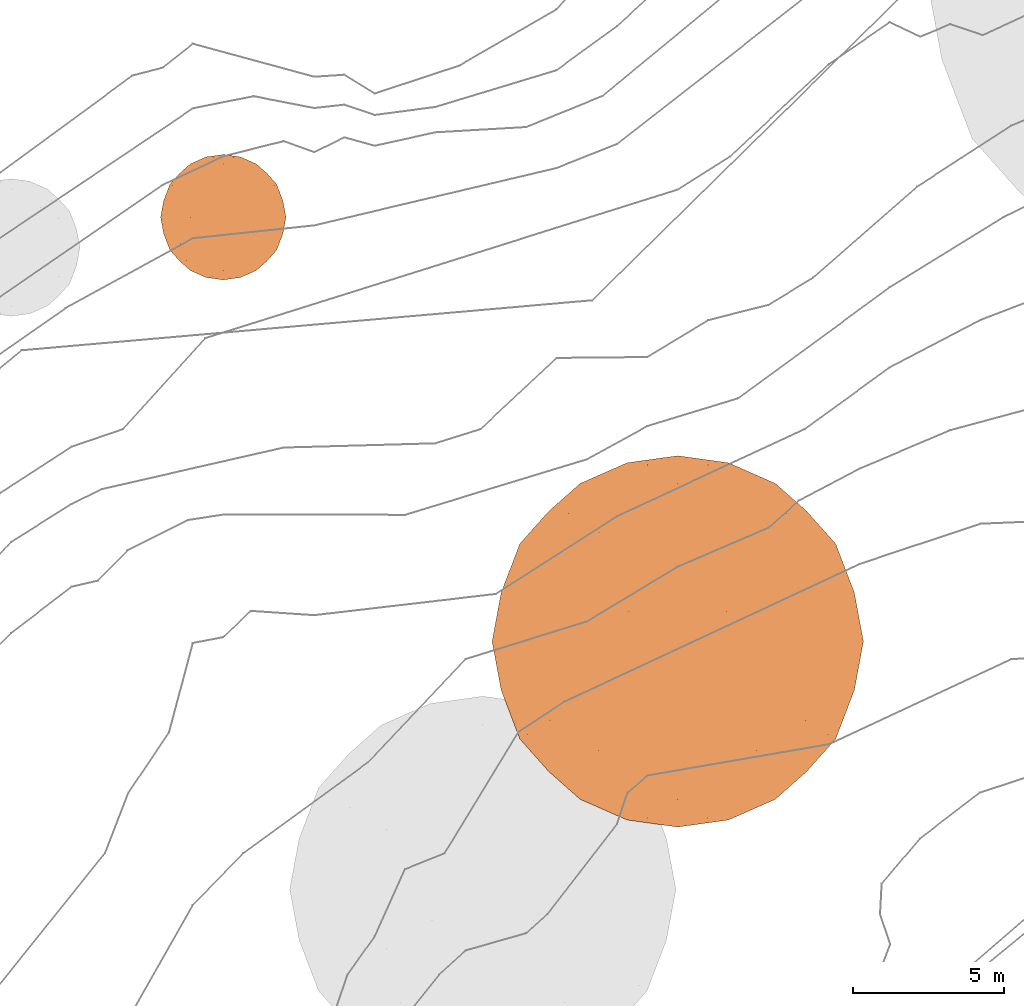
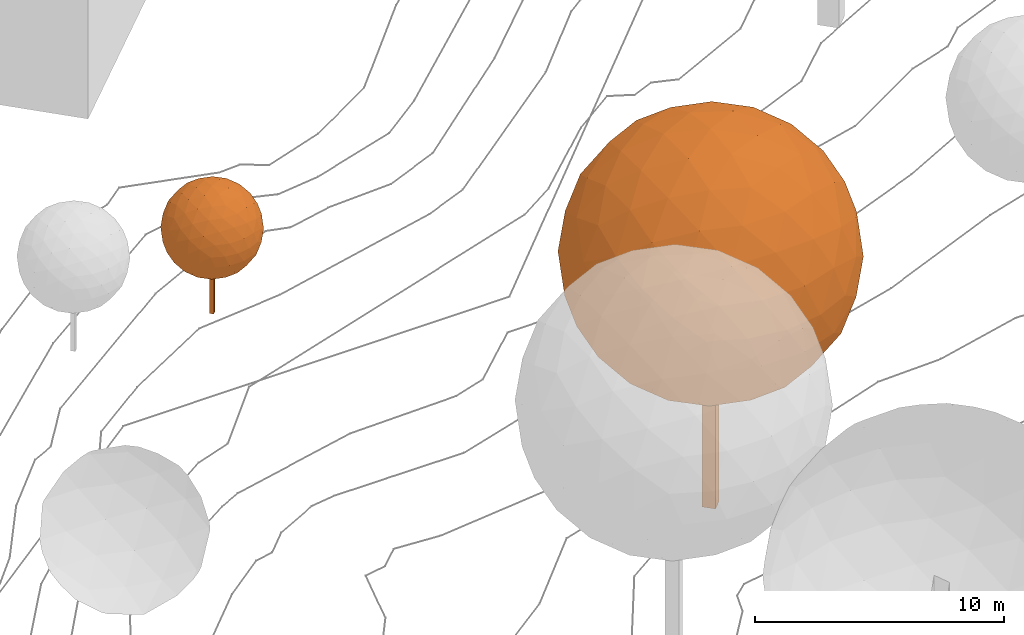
# Not in any storey, part 363 of 477: 2 geographic elements.
"""IFC4 model written with IfcOpenShell, lengths in metres."""

from ifc_helpers import new_model, si_unit, frame, origin_with_axes, place, context, subcontext, project, spatial, polygons, element, save


model = new_model("IFC4")

# Units and contexts
model_context = context("Model", 3, precision=1e-05, world=origin_with_axes())
body_context = subcontext(model_context, "Body", "Model", "MODEL_VIEW")
ifc_project = project(units=[si_unit("AREAUNIT", "SQUARE_METRE"), si_unit("LENGTHUNIT", "METRE")], contexts=[model_context])

# Sites
site_1_placement = place(None, origin_with_axes())
site_1 = spatial("IfcSite", under=ifc_project, at=site_1_placement, Name="Topoexport Site")
site_2_placement = place(site_1_placement, origin_with_axes())
site_2 = spatial("IfcSite", under=site_1, at=site_2_placement, Name="TPX_TREES")

# Geographic elements
geographic_element_1_placement = place(site_2_placement, frame((339.6777320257, 267.1707350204, 521.0171091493), z_axis=(0.0, 0.0, 1.0), x_axis=(1.0, 0.0, 0.0)))
element("IfcGeographicElement", 1, at=geographic_element_1_placement, inside=site_2, Name="Tree TR1 CD41", ObjectType="VEGETATION", PredefinedType="USERDEFINED", context=body_context, shape_type="Tessellation", body=[
    polygons([(0.0, -0.1317442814, 0.0), (-0.1317442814, 0.0, 0.0), (0.0, 0.1317442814, 0.0), (0.1317442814, 0.0, 0.0), (0.0, -0.1317442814, 4.1388686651), (-0.1317442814, 0.0, 4.1388686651), (0.0, 0.1317442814, 4.1388686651), (0.1317442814, 0.0, 4.1388686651)], [[[3, 4, 1]], [[1, 2, 3]], [[5, 8, 7]], [[7, 6, 5]], [[5, 6, 1]], [[1, 6, 2]], [[6, 7, 2]], [[2, 7, 3]], [[8, 5, 4]], [[4, 5, 1]], [[7, 8, 3]], [[3, 8, 4]]]),
    polygons([(-1.0879660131, 1.7603659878, 4.1388686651), (1.0879660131, 1.7603659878, 4.1388686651), (-1.0879660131, -1.7603659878, 4.1388686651), (1.0879660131, -1.7603659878, 4.1388686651), (0.0, -1.0879660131, 5.899234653), (0.0, 1.0879660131, 5.899234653), (0.0, -1.0879660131, 2.3785026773), (0.0, 1.0879660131, 2.3785026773), (1.7603659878, 0.0, 3.050902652), (1.7603659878, 0.0, 5.2268346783), (-1.7603659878, 0.0, 3.050902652), (-1.7603659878, 0.0, 5.2268346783), (0.0, 2.0694343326, 4.1388686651), (0.0, -2.0694343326, 4.1388686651), (-0.6394903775, -1.6742075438, 5.1735858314), (0.6394903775, -1.6742075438, 5.1735858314), (-0.6394903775, 1.6742075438, 5.1735858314), (0.6394903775, 1.6742075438, 5.1735858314), (0.0, 0.0, 6.2083029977), (-0.6394903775, -1.6742075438, 3.1041514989), (0.6394903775, -1.6742075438, 3.1041514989), (-0.6394903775, 1.6742075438, 3.1041514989), (0.6394903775, 1.6742075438, 3.1041514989), (0.0, 0.0, 2.0694343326), (1.6742075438, 1.0347171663, 3.4993782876), (1.6742075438, -1.0347171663, 3.4993782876), (1.0347171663, -0.6394903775, 2.4646611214), (1.0347171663, 0.6394903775, 2.4646611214), (1.6742075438, 1.0347171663, 4.7783590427), (1.6742075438, -1.0347171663, 4.7783590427), (1.0347171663, -0.6394903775, 5.8130762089), (1.0347171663, 0.6394903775, 5.8130762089), (2.0694343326, 0.0, 4.1388686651), (-1.6742075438, 1.0347171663, 3.4993782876), (-1.6742075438, -1.0347171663, 3.4993782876), (-1.0347171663, -0.6394903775, 2.4646611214), (-1.0347171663, 0.6394903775, 2.4646611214), (-1.6742075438, 1.0347171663, 4.7783590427), (-1.6742075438, -1.0347171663, 4.7783590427), (-1.0347171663, -0.6394903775, 5.8130762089), (-1.0347171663, 0.6394903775, 5.8130762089), (-2.0694343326, 0.0, 4.1388686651), (-0.5655071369, 1.9906682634, 4.1388686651), (0.5655071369, 1.9906682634, 4.1388686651), (-0.5655071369, -1.9906682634, 4.1388686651), (0.5655071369, -1.9906682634, 4.1388686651), (-0.897903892, -1.785235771, 4.6766979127), (-0.3323967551, -1.4357331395, 5.591707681), (-0.3361999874, -1.968149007, 4.6828516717), (0.897903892, -1.785235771, 4.6766979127), (0.3323967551, -1.4357331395, 5.591707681), (0.3361999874, -1.968149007, 4.6828516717), (0.0, -1.7603659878, 5.2268346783), (-0.897903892, 1.785235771, 4.6766979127), (-0.3323967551, 1.4357331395, 5.591707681), (-0.3361999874, 1.968149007, 4.6828516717), (0.897903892, 1.785235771, 4.6766979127), (0.3323967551, 1.4357331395, 5.591707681), (0.3361999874, 1.968149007, 4.6828516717), (0.0, 1.7603659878, 5.2268346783), (0.0, -0.5655071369, 6.1295369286), (0.0, 0.5655071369, 6.1295369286), (-0.897903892, -1.785235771, 3.6010394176), (-0.3323967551, -1.4357331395, 2.6860296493), (-0.3361999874, -1.968149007, 3.5948856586), (0.897903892, -1.785235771, 3.6010394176), (0.3323967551, -1.4357331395, 2.6860296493), (0.3361999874, -1.968149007, 3.5948856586), (0.0, -1.7603659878, 3.050902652), (-0.897903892, 1.785235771, 3.6010394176), (-0.3323967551, 1.4357331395, 2.6860296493), (-0.3361999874, 1.968149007, 3.5948856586), (0.897903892, 1.785235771, 3.6010394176), (0.3323967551, 1.4357331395, 2.6860296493), (0.3361999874, 1.968149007, 3.5948856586), (0.0, 1.7603659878, 3.050902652), (0.0, -0.5655071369, 2.1482004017), (0.0, 0.5655071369, 2.1482004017), (1.4357331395, 1.4528390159, 3.80647191), (1.785235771, 0.5378292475, 3.2409647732), (1.2163829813, 1.4241660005, 3.2586856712), (1.4357331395, -1.4528390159, 3.80647191), (1.785235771, -0.5378292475, 3.2409647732), (1.2163829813, -1.4241660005, 3.2586856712), (0.5378292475, -0.897903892, 2.3536328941), (1.4528390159, -0.3323967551, 2.7031355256), (0.8801829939, -1.2163829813, 2.7147026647), (0.5439830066, -0.3361999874, 2.1707196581), (1.4241660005, -0.8801829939, 2.9224856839), (0.5378292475, 0.897903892, 2.3536328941), (1.4528390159, 0.3323967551, 2.7031355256), (0.8801829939, 1.2163829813, 2.7147026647), (0.5439830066, 0.3361999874, 2.1707196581), (1.4241660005, 0.8801829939, 2.9224856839), (1.0879660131, 0.0, 2.3785026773), (1.4357331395, 1.4528390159, 4.4712654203), (1.785235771, 0.5378292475, 5.0367725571), (1.2163829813, 1.4241660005, 5.0190516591), (1.7603659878, 1.0879660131, 4.1388686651), (1.4357331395, -1.4528390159, 4.4712654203), (1.785235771, -0.5378292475, 5.0367725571), (1.2163829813, -1.4241660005, 5.0190516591), (1.7603659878, -1.0879660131, 4.1388686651), (0.5378292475, -0.897903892, 5.9241044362), (1.4528390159, -0.3323967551, 5.5746018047), (0.8801829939, -1.2163829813, 5.5630346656), (0.5439830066, -0.3361999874, 6.1070176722), (1.4241660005, -0.8801829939, 5.3552516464), (0.5378292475, 0.897903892, 5.9241044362), (1.4528390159, 0.3323967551, 5.5746018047), (0.8801829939, 1.2163829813, 5.5630346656), (0.5439830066, 0.3361999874, 6.1070176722), (1.4241660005, 0.8801829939, 5.3552516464), (1.0879660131, 0.0, 5.899234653), (1.9906682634, 0.0, 3.5733615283), (1.9906682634, 0.0, 4.704375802), (1.968149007, 0.5439830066, 3.8026686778), (1.968149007, -0.5439830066, 3.8026686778), (1.968149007, 0.5439830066, 4.4750686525), (1.968149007, -0.5439830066, 4.4750686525), (-1.4357331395, 1.4528390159, 3.80647191), (-1.785235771, 0.5378292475, 3.2409647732), (-1.2163829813, 1.4241660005, 3.2586856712), (-1.4357331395, -1.4528390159, 3.80647191), (-1.785235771, -0.5378292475, 3.2409647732), (-1.2163829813, -1.4241660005, 3.2586856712), (-0.5378292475, -0.897903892, 2.3536328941), (-1.4528390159, -0.3323967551, 2.7031355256), (-0.8801829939, -1.2163829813, 2.7147026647), (-0.5439830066, -0.3361999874, 2.1707196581), (-1.4241660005, -0.8801829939, 2.9224856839), (-0.5378292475, 0.897903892, 2.3536328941), (-1.4528390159, 0.3323967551, 2.7031355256), (-0.8801829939, 1.2163829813, 2.7147026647), (-0.5439830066, 0.3361999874, 2.1707196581), (-1.4241660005, 0.8801829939, 2.9224856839), (-1.0879660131, 0.0, 2.3785026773), (-1.4357331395, 1.4528390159, 4.4712654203), (-1.785235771, 0.5378292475, 5.0367725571), (-1.2163829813, 1.4241660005, 5.0190516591), (-1.7603659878, 1.0879660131, 4.1388686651), (-1.4357331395, -1.4528390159, 4.4712654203), (-1.785235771, -0.5378292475, 5.0367725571), (-1.2163829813, -1.4241660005, 5.0190516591), (-1.7603659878, -1.0879660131, 4.1388686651), (-0.5378292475, -0.897903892, 5.9241044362), (-1.4528390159, -0.3323967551, 5.5746018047), (-0.8801829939, -1.2163829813, 5.5630346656), (-0.5439830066, -0.3361999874, 6.1070176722), (-1.4241660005, -0.8801829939, 5.3552516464), (-0.5378292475, 0.897903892, 5.9241044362), (-1.4528390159, 0.3323967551, 5.5746018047), (-0.8801829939, 1.2163829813, 5.5630346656), (-0.5439830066, 0.3361999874, 6.1070176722), (-1.4241660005, 0.8801829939, 5.3552516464), (-1.0879660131, 0.0, 5.899234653), (-1.9906682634, 0.0, 3.5733615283), (-1.9906682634, 0.0, 4.704375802), (-1.968149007, 0.5439830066, 3.8026686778), (-1.968149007, -0.5439830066, 3.8026686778), (-1.968149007, 0.5439830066, 4.4750686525), (-1.968149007, -0.5439830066, 4.4750686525)], [[[1, 138, 54]], [[138, 38, 140]], [[54, 140, 17]], [[138, 140, 54]], [[38, 139, 155]], [[139, 12, 152]], [[155, 152, 41]], [[139, 152, 155]], [[17, 153, 55]], [[153, 41, 151]], [[55, 151, 6]], [[153, 151, 55]], [[38, 155, 140]], [[155, 41, 153]], [[140, 153, 17]], [[155, 153, 140]], [[1, 54, 43]], [[54, 17, 56]], [[43, 56, 13]], [[54, 56, 43]], [[17, 55, 60]], [[55, 6, 58]], [[60, 58, 18]], [[55, 58, 60]], [[13, 59, 44]], [[59, 18, 57]], [[44, 57, 2]], [[59, 57, 44]], [[17, 60, 56]], [[60, 18, 59]], [[56, 59, 13]], [[60, 59, 56]], [[1, 43, 70]], [[43, 13, 72]], [[70, 72, 22]], [[43, 72, 70]], [[13, 44, 75]], [[44, 2, 73]], [[75, 73, 23]], [[44, 73, 75]], [[22, 76, 71]], [[76, 23, 74]], [[71, 74, 8]], [[76, 74, 71]], [[13, 75, 72]], [[75, 23, 76]], [[72, 76, 22]], [[75, 76, 72]], [[1, 70, 121]], [[70, 22, 123]], [[121, 123, 34]], [[70, 123, 121]], [[22, 71, 134]], [[71, 8, 132]], [[134, 132, 37]], [[71, 132, 134]], [[34, 136, 122]], [[136, 37, 133]], [[122, 133, 11]], [[136, 133, 122]], [[22, 134, 123]], [[134, 37, 136]], [[123, 136, 34]], [[134, 136, 123]], [[1, 121, 138]], [[121, 34, 141]], [[138, 141, 38]], [[121, 141, 138]], [[34, 122, 159]], [[122, 11, 157]], [[159, 157, 42]], [[122, 157, 159]], [[38, 161, 139]], [[161, 42, 158]], [[139, 158, 12]], [[161, 158, 139]], [[34, 159, 141]], [[159, 42, 161]], [[141, 161, 38]], [[159, 161, 141]], [[2, 57, 96]], [[57, 18, 98]], [[96, 98, 29]], [[57, 98, 96]], [[18, 58, 111]], [[58, 6, 109]], [[111, 109, 32]], [[58, 109, 111]], [[29, 113, 97]], [[113, 32, 110]], [[97, 110, 10]], [[113, 110, 97]], [[18, 111, 98]], [[111, 32, 113]], [[98, 113, 29]], [[111, 113, 98]], [[6, 151, 62]], [[151, 41, 154]], [[62, 154, 19]], [[151, 154, 62]], [[41, 152, 156]], [[152, 12, 147]], [[156, 147, 40]], [[152, 147, 156]], [[19, 149, 61]], [[149, 40, 146]], [[61, 146, 5]], [[149, 146, 61]], [[41, 156, 154]], [[156, 40, 149]], [[154, 149, 19]], [[156, 149, 154]], [[12, 158, 143]], [[158, 42, 162]], [[143, 162, 39]], [[158, 162, 143]], [[42, 157, 160]], [[157, 11, 125]], [[160, 125, 35]], [[157, 125, 160]], [[39, 145, 142]], [[145, 35, 124]], [[142, 124, 3]], [[145, 124, 142]], [[42, 160, 162]], [[160, 35, 145]], [[162, 145, 39]], [[160, 145, 162]], [[11, 133, 128]], [[133, 37, 137]], [[128, 137, 36]], [[133, 137, 128]], [[37, 132, 135]], [[132, 8, 78]], [[135, 78, 24]], [[132, 78, 135]], [[36, 130, 127]], [[130, 24, 77]], [[127, 77, 7]], [[130, 77, 127]], [[37, 135, 137]], [[135, 24, 130]], [[137, 130, 36]], [[135, 130, 137]], [[8, 74, 90]], [[74, 23, 92]], [[90, 92, 28]], [[74, 92, 90]], [[23, 73, 81]], [[73, 2, 79]], [[81, 79, 25]], [[73, 79, 81]], [[28, 94, 91]], [[94, 25, 80]], [[91, 80, 9]], [[94, 80, 91]], [[23, 81, 92]], [[81, 25, 94]], [[92, 94, 28]], [[81, 94, 92]], [[4, 100, 50]], [[100, 30, 102]], [[50, 102, 16]], [[100, 102, 50]], [[30, 101, 108]], [[101, 10, 105]], [[108, 105, 31]], [[101, 105, 108]], [[16, 106, 51]], [[106, 31, 104]], [[51, 104, 5]], [[106, 104, 51]], [[30, 108, 102]], [[108, 31, 106]], [[102, 106, 16]], [[108, 106, 102]], [[4, 50, 46]], [[50, 16, 52]], [[46, 52, 14]], [[50, 52, 46]], [[16, 51, 53]], [[51, 5, 48]], [[53, 48, 15]], [[51, 48, 53]], [[14, 49, 45]], [[49, 15, 47]], [[45, 47, 3]], [[49, 47, 45]], [[16, 53, 52]], [[53, 15, 49]], [[52, 49, 14]], [[53, 49, 52]], [[4, 46, 66]], [[46, 14, 68]], [[66, 68, 21]], [[46, 68, 66]], [[14, 45, 65]], [[45, 3, 63]], [[65, 63, 20]], [[45, 63, 65]], [[21, 69, 67]], [[69, 20, 64]], [[67, 64, 7]], [[69, 64, 67]], [[14, 65, 68]], [[65, 20, 69]], [[68, 69, 21]], [[65, 69, 68]], [[4, 66, 82]], [[66, 21, 84]], [[82, 84, 26]], [[66, 84, 82]], [[21, 67, 87]], [[67, 7, 85]], [[87, 85, 27]], [[67, 85, 87]], [[26, 89, 83]], [[89, 27, 86]], [[83, 86, 9]], [[89, 86, 83]], [[21, 87, 84]], [[87, 27, 89]], [[84, 89, 26]], [[87, 89, 84]], [[4, 82, 100]], [[82, 26, 103]], [[100, 103, 30]], [[82, 103, 100]], [[26, 83, 118]], [[83, 9, 115]], [[118, 115, 33]], [[83, 115, 118]], [[30, 120, 101]], [[120, 33, 116]], [[101, 116, 10]], [[120, 116, 101]], [[26, 118, 103]], [[118, 33, 120]], [[103, 120, 30]], [[118, 120, 103]], [[5, 104, 61]], [[104, 31, 107]], [[61, 107, 19]], [[104, 107, 61]], [[31, 105, 114]], [[105, 10, 110]], [[114, 110, 32]], [[105, 110, 114]], [[19, 112, 62]], [[112, 32, 109]], [[62, 109, 6]], [[112, 109, 62]], [[31, 114, 107]], [[114, 32, 112]], [[107, 112, 19]], [[114, 112, 107]], [[3, 47, 142]], [[47, 15, 144]], [[142, 144, 39]], [[47, 144, 142]], [[15, 48, 148]], [[48, 5, 146]], [[148, 146, 40]], [[48, 146, 148]], [[39, 150, 143]], [[150, 40, 147]], [[143, 147, 12]], [[150, 147, 143]], [[15, 148, 144]], [[148, 40, 150]], [[144, 150, 39]], [[148, 150, 144]], [[7, 64, 127]], [[64, 20, 129]], [[127, 129, 36]], [[64, 129, 127]], [[20, 63, 126]], [[63, 3, 124]], [[126, 124, 35]], [[63, 124, 126]], [[36, 131, 128]], [[131, 35, 125]], [[128, 125, 11]], [[131, 125, 128]], [[20, 126, 129]], [[126, 35, 131]], [[129, 131, 36]], [[126, 131, 129]], [[9, 86, 91]], [[86, 27, 95]], [[91, 95, 28]], [[86, 95, 91]], [[27, 85, 88]], [[85, 7, 77]], [[88, 77, 24]], [[85, 77, 88]], [[28, 93, 90]], [[93, 24, 78]], [[90, 78, 8]], [[93, 78, 90]], [[27, 88, 95]], [[88, 24, 93]], [[95, 93, 28]], [[88, 93, 95]], [[10, 116, 97]], [[116, 33, 119]], [[97, 119, 29]], [[116, 119, 97]], [[33, 115, 117]], [[115, 9, 80]], [[117, 80, 25]], [[115, 80, 117]], [[29, 99, 96]], [[99, 25, 79]], [[96, 79, 2]], [[99, 79, 96]], [[33, 117, 119]], [[117, 25, 99]], [[119, 99, 29]], [[117, 99, 119]]]),
])
geographic_element_2_placement = place(site_2_placement, frame((354.6777320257, 253.1707354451, 514.8688558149), z_axis=(0.0, 0.0, 1.0), x_axis=(1.0, 0.0, 0.0)))
element("IfcGeographicElement", 2, at=geographic_element_2_placement, inside=site_2, Name="Tree TR3 CD122", ObjectType="VEGETATION", PredefinedType="USERDEFINED", context=body_context, shape_type="Tessellation", body=[
    polygons([(0.0, -0.3901307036, 0.0), (-0.3901307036, 0.0, 0.0), (0.0, 0.3901307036, 0.0), (0.3901307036, 0.0, 0.0), (0.0, -0.3901307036, 12.2563175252), (-0.3901307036, 0.0, 12.2563175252), (0.0, 0.3901307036, 12.2563175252), (0.3901307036, 0.0, 12.2563175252)], [[[3, 4, 1]], [[1, 2, 3]], [[5, 8, 7]], [[7, 6, 5]], [[5, 6, 1]], [[1, 6, 2]], [[6, 7, 2]], [[2, 7, 3]], [[8, 5, 4]], [[4, 5, 1]], [[7, 8, 3]], [[3, 8, 4]]]),
    polygons([(-3.2217637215, 5.2129232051, 12.2563175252), (3.2217637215, 5.2129232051, 12.2563175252), (-3.2217637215, -5.2129232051, 12.2563175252), (3.2217637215, -5.2129232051, 12.2563175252), (0.0, -3.2217637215, 17.4692407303), (0.0, 3.2217637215, 17.4692407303), (0.0, -3.2217637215, 7.0433943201), (0.0, 3.2217637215, 7.0433943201), (5.2129232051, 0.0, 9.0345538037), (5.2129232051, 0.0, 15.4780812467), (-5.2129232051, 0.0, 9.0345538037), (-5.2129232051, 0.0, 15.4780812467), (0.0, 6.1281587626, 12.2563175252), (0.0, -6.1281587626, 12.2563175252), (-1.8937052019, -4.9577845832, 15.3203969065), (1.8937052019, -4.9577845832, 15.3203969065), (-1.8937052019, 4.9577845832, 15.3203969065), (1.8937052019, 4.9577845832, 15.3203969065), (0.0, 0.0, 18.3844762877), (-1.8937052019, -4.9577845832, 9.1922381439), (1.8937052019, -4.9577845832, 9.1922381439), (-1.8937052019, 4.9577845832, 9.1922381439), (1.8937052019, 4.9577845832, 9.1922381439), (0.0, 0.0, 6.1281587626), (4.9577845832, 3.0640793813, 10.3626123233), (4.9577845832, -3.0640793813, 10.3626123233), (3.0640793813, -1.8937052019, 7.298532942), (3.0640793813, 1.8937052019, 7.298532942), (4.9577845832, 3.0640793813, 14.150022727), (4.9577845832, -3.0640793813, 14.150022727), (3.0640793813, -1.8937052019, 17.2141021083), (3.0640793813, 1.8937052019, 17.2141021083), (6.1281587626, 0.0, 12.2563175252), (-4.9577845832, 3.0640793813, 10.3626123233), (-4.9577845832, -3.0640793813, 10.3626123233), (-3.0640793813, -1.8937052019, 7.298532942), (-3.0640793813, 1.8937052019, 7.298532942), (-4.9577845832, 3.0640793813, 14.150022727), (-4.9577845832, -3.0640793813, 14.150022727), (-3.0640793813, -1.8937052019, 17.2141021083), (-3.0640793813, 1.8937052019, 17.2141021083), (-6.1281587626, 0.0, 12.2563175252), (-1.6746206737, 5.8949109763, 12.2563175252), (1.6746206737, 5.8949109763, 12.2563175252), (-1.6746206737, -5.8949109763, 12.2563175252), (1.6746206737, -5.8949109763, 12.2563175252), (-2.6589380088, -5.2865694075, 13.8489764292), (-0.9843173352, -4.2515969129, 16.5585695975), (-0.9955797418, -5.828225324, 13.8671993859), (2.6589380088, -5.2865694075, 13.8489764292), (0.9843173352, -4.2515969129, 16.5585695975), (0.9955797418, -5.828225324, 13.8671993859), (0.0, -5.2129232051, 15.4780812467), (-2.6589380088, 5.2865694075, 13.8489764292), (-0.9843173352, 4.2515969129, 16.5585695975), (-0.9955797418, 5.828225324, 13.8671993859), (2.6589380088, 5.2865694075, 13.8489764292), (0.9843173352, 4.2515969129, 16.5585695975), (0.9955797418, 5.828225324, 13.8671993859), (0.0, 5.2129232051, 15.4780812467), (0.0, -1.6746206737, 18.1512285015), (0.0, 1.6746206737, 18.1512285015), (-2.6589380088, -5.2865694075, 10.6636586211), (-0.9843173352, -4.2515969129, 7.9540654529), (-0.9955797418, -5.828225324, 10.6454356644), (2.6589380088, -5.2865694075, 10.6636586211), (0.9843173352, -4.2515969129, 7.9540654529), (0.9955797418, -5.828225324, 10.6454356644), (0.0, -5.2129232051, 9.0345538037), (-2.6589380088, 5.2865694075, 10.6636586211), (-0.9843173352, 4.2515969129, 7.9540654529), (-0.9955797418, 5.828225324, 10.6454356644), (2.6589380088, 5.2865694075, 10.6636586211), (0.9843173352, 4.2515969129, 7.9540654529), (0.9955797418, 5.828225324, 10.6454356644), (0.0, 5.2129232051, 9.0345538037), (0.0, -1.6746206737, 6.3614065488), (0.0, 1.6746206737, 6.3614065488), (4.2515969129, 4.3022520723, 11.27200019), (5.2865694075, 1.592658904, 9.5973795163), (3.6020413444, 4.2173434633, 9.6498559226), (4.2515969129, -4.3022520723, 11.27200019), (5.2865694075, -1.592658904, 9.5973795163), (3.6020413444, -4.2173434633, 9.6498559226), (1.592658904, -2.6589380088, 6.9697481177), (4.3022520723, -0.9843173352, 8.0047206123), (2.6064616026, -3.6020413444, 8.0389740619), (1.6108818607, -0.9955797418, 6.4280922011), (4.2173434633, -2.6064616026, 8.6542761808), (1.592658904, 2.6589380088, 6.9697481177), (4.3022520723, 0.9843173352, 8.0047206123), (2.6064616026, 3.6020413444, 8.0389740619), (1.6108818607, 0.9955797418, 6.4280922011), (4.2173434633, 2.6064616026, 8.6542761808), (3.2217637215, 0.0, 7.0433943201), (4.2515969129, 4.3022520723, 13.2406348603), (5.2865694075, 1.592658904, 14.915255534), (3.6020413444, 4.2173434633, 14.8627791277), (5.2129232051, 3.2217637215, 12.2563175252), (4.2515969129, -4.3022520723, 13.2406348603), (5.2865694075, -1.592658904, 14.915255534), (3.6020413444, -4.2173434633, 14.8627791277), (5.2129232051, -3.2217637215, 12.2563175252), (1.592658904, -2.6589380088, 17.5428869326), (4.3022520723, -0.9843173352, 16.507914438), (2.6064616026, -3.6020413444, 16.4736609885), (1.6108818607, -0.9955797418, 18.0845428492), (4.2173434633, -2.6064616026, 15.8583588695), (1.592658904, 2.6589380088, 17.5428869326), (4.3022520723, 0.9843173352, 16.507914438), (2.6064616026, 3.6020413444, 16.4736609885), (1.6108818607, 0.9955797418, 18.0845428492), (4.2173434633, 2.6064616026, 15.8583588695), (3.2217637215, 0.0, 17.4692407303), (5.8949109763, 0.0, 10.5816968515), (5.8949109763, 0.0, 13.9309381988), (5.828225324, 1.6108818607, 11.2607377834), (5.828225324, -1.6108818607, 11.2607377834), (5.828225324, 1.6108818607, 13.251897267), (5.828225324, -1.6108818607, 13.251897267), (-4.2515969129, 4.3022520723, 11.27200019), (-5.2865694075, 1.592658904, 9.5973795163), (-3.6020413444, 4.2173434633, 9.6498559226), (-4.2515969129, -4.3022520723, 11.27200019), (-5.2865694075, -1.592658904, 9.5973795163), (-3.6020413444, -4.2173434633, 9.6498559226), (-1.592658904, -2.6589380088, 6.9697481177), (-4.3022520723, -0.9843173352, 8.0047206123), (-2.6064616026, -3.6020413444, 8.0389740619), (-1.6108818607, -0.9955797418, 6.4280922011), (-4.2173434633, -2.6064616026, 8.6542761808), (-1.592658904, 2.6589380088, 6.9697481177), (-4.3022520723, 0.9843173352, 8.0047206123), (-2.6064616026, 3.6020413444, 8.0389740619), (-1.6108818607, 0.9955797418, 6.4280922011), (-4.2173434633, 2.6064616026, 8.6542761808), (-3.2217637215, 0.0, 7.0433943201), (-4.2515969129, 4.3022520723, 13.2406348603), (-5.2865694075, 1.592658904, 14.915255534), (-3.6020413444, 4.2173434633, 14.8627791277), (-5.2129232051, 3.2217637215, 12.2563175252), (-4.2515969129, -4.3022520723, 13.2406348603), (-5.2865694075, -1.592658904, 14.915255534), (-3.6020413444, -4.2173434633, 14.8627791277), (-5.2129232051, -3.2217637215, 12.2563175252), (-1.592658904, -2.6589380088, 17.5428869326), (-4.3022520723, -0.9843173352, 16.507914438), (-2.6064616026, -3.6020413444, 16.4736609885), (-1.6108818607, -0.9955797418, 18.0845428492), (-4.2173434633, -2.6064616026, 15.8583588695), (-1.592658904, 2.6589380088, 17.5428869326), (-4.3022520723, 0.9843173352, 16.507914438), (-2.6064616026, 3.6020413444, 16.4736609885), (-1.6108818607, 0.9955797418, 18.0845428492), (-4.2173434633, 2.6064616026, 15.8583588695), (-3.2217637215, 0.0, 17.4692407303), (-5.8949109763, 0.0, 10.5816968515), (-5.8949109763, 0.0, 13.9309381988), (-5.828225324, 1.6108818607, 11.2607377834), (-5.828225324, -1.6108818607, 11.2607377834), (-5.828225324, 1.6108818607, 13.251897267), (-5.828225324, -1.6108818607, 13.251897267)], [[[1, 138, 54]], [[138, 38, 140]], [[54, 140, 17]], [[138, 140, 54]], [[38, 139, 155]], [[139, 12, 152]], [[155, 152, 41]], [[139, 152, 155]], [[17, 153, 55]], [[153, 41, 151]], [[55, 151, 6]], [[153, 151, 55]], [[38, 155, 140]], [[155, 41, 153]], [[140, 153, 17]], [[155, 153, 140]], [[1, 54, 43]], [[54, 17, 56]], [[43, 56, 13]], [[54, 56, 43]], [[17, 55, 60]], [[55, 6, 58]], [[60, 58, 18]], [[55, 58, 60]], [[13, 59, 44]], [[59, 18, 57]], [[44, 57, 2]], [[59, 57, 44]], [[17, 60, 56]], [[60, 18, 59]], [[56, 59, 13]], [[60, 59, 56]], [[1, 43, 70]], [[43, 13, 72]], [[70, 72, 22]], [[43, 72, 70]], [[13, 44, 75]], [[44, 2, 73]], [[75, 73, 23]], [[44, 73, 75]], [[22, 76, 71]], [[76, 23, 74]], [[71, 74, 8]], [[76, 74, 71]], [[13, 75, 72]], [[75, 23, 76]], [[72, 76, 22]], [[75, 76, 72]], [[1, 70, 121]], [[70, 22, 123]], [[121, 123, 34]], [[70, 123, 121]], [[22, 71, 134]], [[71, 8, 132]], [[134, 132, 37]], [[71, 132, 134]], [[34, 136, 122]], [[136, 37, 133]], [[122, 133, 11]], [[136, 133, 122]], [[22, 134, 123]], [[134, 37, 136]], [[123, 136, 34]], [[134, 136, 123]], [[1, 121, 138]], [[121, 34, 141]], [[138, 141, 38]], [[121, 141, 138]], [[34, 122, 159]], [[122, 11, 157]], [[159, 157, 42]], [[122, 157, 159]], [[38, 161, 139]], [[161, 42, 158]], [[139, 158, 12]], [[161, 158, 139]], [[34, 159, 141]], [[159, 42, 161]], [[141, 161, 38]], [[159, 161, 141]], [[2, 57, 96]], [[57, 18, 98]], [[96, 98, 29]], [[57, 98, 96]], [[18, 58, 111]], [[58, 6, 109]], [[111, 109, 32]], [[58, 109, 111]], [[29, 113, 97]], [[113, 32, 110]], [[97, 110, 10]], [[113, 110, 97]], [[18, 111, 98]], [[111, 32, 113]], [[98, 113, 29]], [[111, 113, 98]], [[6, 151, 62]], [[151, 41, 154]], [[62, 154, 19]], [[151, 154, 62]], [[41, 152, 156]], [[152, 12, 147]], [[156, 147, 40]], [[152, 147, 156]], [[19, 149, 61]], [[149, 40, 146]], [[61, 146, 5]], [[149, 146, 61]], [[41, 156, 154]], [[156, 40, 149]], [[154, 149, 19]], [[156, 149, 154]], [[12, 158, 143]], [[158, 42, 162]], [[143, 162, 39]], [[158, 162, 143]], [[42, 157, 160]], [[157, 11, 125]], [[160, 125, 35]], [[157, 125, 160]], [[39, 145, 142]], [[145, 35, 124]], [[142, 124, 3]], [[145, 124, 142]], [[42, 160, 162]], [[160, 35, 145]], [[162, 145, 39]], [[160, 145, 162]], [[11, 133, 128]], [[133, 37, 137]], [[128, 137, 36]], [[133, 137, 128]], [[37, 132, 135]], [[132, 8, 78]], [[135, 78, 24]], [[132, 78, 135]], [[36, 130, 127]], [[130, 24, 77]], [[127, 77, 7]], [[130, 77, 127]], [[37, 135, 137]], [[135, 24, 130]], [[137, 130, 36]], [[135, 130, 137]], [[8, 74, 90]], [[74, 23, 92]], [[90, 92, 28]], [[74, 92, 90]], [[23, 73, 81]], [[73, 2, 79]], [[81, 79, 25]], [[73, 79, 81]], [[28, 94, 91]], [[94, 25, 80]], [[91, 80, 9]], [[94, 80, 91]], [[23, 81, 92]], [[81, 25, 94]], [[92, 94, 28]], [[81, 94, 92]], [[4, 100, 50]], [[100, 30, 102]], [[50, 102, 16]], [[100, 102, 50]], [[30, 101, 108]], [[101, 10, 105]], [[108, 105, 31]], [[101, 105, 108]], [[16, 106, 51]], [[106, 31, 104]], [[51, 104, 5]], [[106, 104, 51]], [[30, 108, 102]], [[108, 31, 106]], [[102, 106, 16]], [[108, 106, 102]], [[4, 50, 46]], [[50, 16, 52]], [[46, 52, 14]], [[50, 52, 46]], [[16, 51, 53]], [[51, 5, 48]], [[53, 48, 15]], [[51, 48, 53]], [[14, 49, 45]], [[49, 15, 47]], [[45, 47, 3]], [[49, 47, 45]], [[16, 53, 52]], [[53, 15, 49]], [[52, 49, 14]], [[53, 49, 52]], [[4, 46, 66]], [[46, 14, 68]], [[66, 68, 21]], [[46, 68, 66]], [[14, 45, 65]], [[45, 3, 63]], [[65, 63, 20]], [[45, 63, 65]], [[21, 69, 67]], [[69, 20, 64]], [[67, 64, 7]], [[69, 64, 67]], [[14, 65, 68]], [[65, 20, 69]], [[68, 69, 21]], [[65, 69, 68]], [[4, 66, 82]], [[66, 21, 84]], [[82, 84, 26]], [[66, 84, 82]], [[21, 67, 87]], [[67, 7, 85]], [[87, 85, 27]], [[67, 85, 87]], [[26, 89, 83]], [[89, 27, 86]], [[83, 86, 9]], [[89, 86, 83]], [[21, 87, 84]], [[87, 27, 89]], [[84, 89, 26]], [[87, 89, 84]], [[4, 82, 100]], [[82, 26, 103]], [[100, 103, 30]], [[82, 103, 100]], [[26, 83, 118]], [[83, 9, 115]], [[118, 115, 33]], [[83, 115, 118]], [[30, 120, 101]], [[120, 33, 116]], [[101, 116, 10]], [[120, 116, 101]], [[26, 118, 103]], [[118, 33, 120]], [[103, 120, 30]], [[118, 120, 103]], [[5, 104, 61]], [[104, 31, 107]], [[61, 107, 19]], [[104, 107, 61]], [[31, 105, 114]], [[105, 10, 110]], [[114, 110, 32]], [[105, 110, 114]], [[19, 112, 62]], [[112, 32, 109]], [[62, 109, 6]], [[112, 109, 62]], [[31, 114, 107]], [[114, 32, 112]], [[107, 112, 19]], [[114, 112, 107]], [[3, 47, 142]], [[47, 15, 144]], [[142, 144, 39]], [[47, 144, 142]], [[15, 48, 148]], [[48, 5, 146]], [[148, 146, 40]], [[48, 146, 148]], [[39, 150, 143]], [[150, 40, 147]], [[143, 147, 12]], [[150, 147, 143]], [[15, 148, 144]], [[148, 40, 150]], [[144, 150, 39]], [[148, 150, 144]], [[7, 64, 127]], [[64, 20, 129]], [[127, 129, 36]], [[64, 129, 127]], [[20, 63, 126]], [[63, 3, 124]], [[126, 124, 35]], [[63, 124, 126]], [[36, 131, 128]], [[131, 35, 125]], [[128, 125, 11]], [[131, 125, 128]], [[20, 126, 129]], [[126, 35, 131]], [[129, 131, 36]], [[126, 131, 129]], [[9, 86, 91]], [[86, 27, 95]], [[91, 95, 28]], [[86, 95, 91]], [[27, 85, 88]], [[85, 7, 77]], [[88, 77, 24]], [[85, 77, 88]], [[28, 93, 90]], [[93, 24, 78]], [[90, 78, 8]], [[93, 78, 90]], [[27, 88, 95]], [[88, 24, 93]], [[95, 93, 28]], [[88, 93, 95]], [[10, 116, 97]], [[116, 33, 119]], [[97, 119, 29]], [[116, 119, 97]], [[33, 115, 117]], [[115, 9, 80]], [[117, 80, 25]], [[115, 80, 117]], [[29, 99, 96]], [[99, 25, 79]], [[96, 79, 2]], [[99, 79, 96]], [[33, 117, 119]], [[117, 25, 99]], [[119, 99, 29]], [[117, 99, 119]]]),
])

save(model, "model.ifc")
